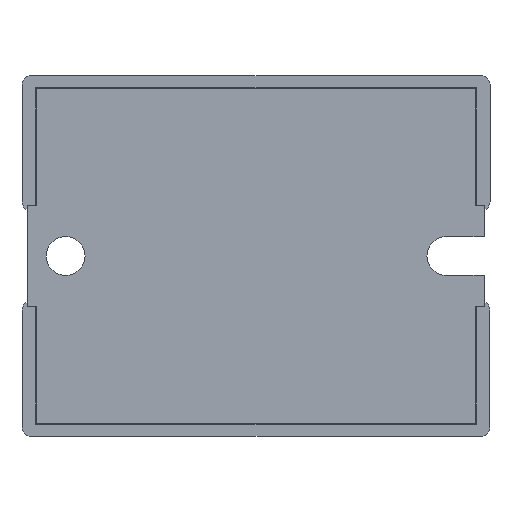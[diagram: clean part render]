
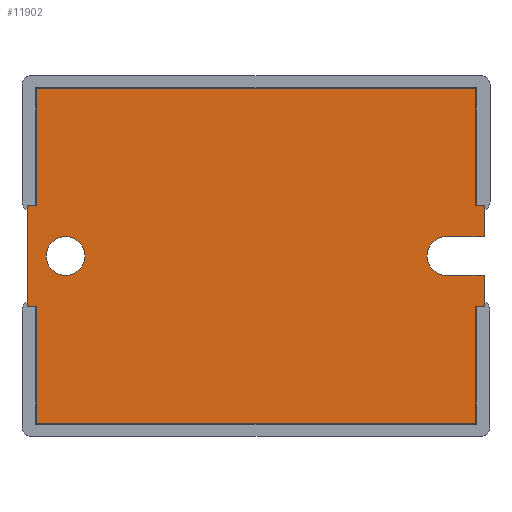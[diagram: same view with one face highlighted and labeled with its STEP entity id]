
A CAD part, front view. The second image highlights one B-rep face of the part: STEP entity #11902.
In plain terms, the highlighted planar face has unit normal (0, -1, 0).
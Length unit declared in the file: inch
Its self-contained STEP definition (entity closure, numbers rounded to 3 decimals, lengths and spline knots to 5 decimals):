
#18 = VECTOR ( 'NONE', #7215, 39.37008 ) ;
#168 = LINE ( 'NONE', #6936, #18 ) ;
#293 = LINE ( 'NONE', #7094, #3520 ) ;
#692 = CARTESIAN_POINT ( 'NONE',  ( 1.08563, -0.765, 0.24713 ) ) ;
#704 = CARTESIAN_POINT ( 'NONE',  ( -1.08563, -0.765, 0.24713 ) ) ;
#706 = CARTESIAN_POINT ( 'NONE',  ( -1.08563, -0.765, 0.82713 ) ) ;
#715 = CARTESIAN_POINT ( 'NONE',  ( -1.08563, -0.765, -0.82713 ) ) ;
#738 = CARTESIAN_POINT ( 'NONE',  ( -1.12713, -0.765, 0.24713 ) ) ;
#785 = CARTESIAN_POINT ( 'NONE',  ( -1.08563, -0.765, -0.24713 ) ) ;
#801 = CARTESIAN_POINT ( 'NONE',  ( -1.12713, -0.765, -0.24713 ) ) ;
#819 = CARTESIAN_POINT ( 'NONE',  ( 0.94, -0.765, -0.096 ) ) ;
#842 = CARTESIAN_POINT ( 'NONE',  ( 0.94, -0.765, 0.096 ) ) ;
#846 = CARTESIAN_POINT ( 'NONE',  ( 1.12713, -0.765, 0.096 ) ) ;
#1364 = LINE ( 'NONE', #6867, #9193 ) ;
#2194 = FACE_BOUND ( 'NONE', #9699, .T. ) ;
#2242 = LINE ( 'NONE', #6702, #8969 ) ;
#2275 = LINE ( 'NONE', #7385, #9082 ) ;
#2283 = LINE ( 'NONE', #5780, #8691 ) ;
#2382 = FACE_OUTER_BOUND ( 'NONE', #10420, .T. ) ;
#2565 = LINE ( 'NONE', #16593, #14569 ) ;
#2748 = CIRCLE ( 'NONE', #2894, 0.096 ) ;
#2894 = AXIS2_PLACEMENT_3D ( 'NONE', #13949, #14347, #14264 ) ;
#2965 = VECTOR ( 'NONE', #14489, 39.37008 ) ;
#3159 = CARTESIAN_POINT ( 'NONE',  ( -1.08563, -0.765, 0.82713 ) ) ;
#3273 = DIRECTION ( 'NONE',  ( 0., 0., 1. ) ) ;
#3274 = CARTESIAN_POINT ( 'NONE',  ( 1.08563, -0.765, -0.82713 ) ) ;
#3359 = DIRECTION ( 'NONE',  ( 0., 0., 1. ) ) ;
#3360 = CARTESIAN_POINT ( 'NONE',  ( 1.12713, -0.765, -0.24713 ) ) ;
#3368 = DIRECTION ( 'NONE',  ( 0., 0., -1. ) ) ;
#3369 = CARTESIAN_POINT ( 'NONE',  ( -1.08563, -0.765, -0.24713 ) ) ;
#3372 = DIRECTION ( 'NONE',  ( 0., 0., -1. ) ) ;
#3375 = DIRECTION ( 'NONE',  ( 0., 0., -1. ) ) ;
#3376 = CARTESIAN_POINT ( 'NONE',  ( -1.12713, -0.765, 0.24713 ) ) ;
#3520 = VECTOR ( 'NONE', #7092, 39.37008 ) ;
#4676 = DIRECTION ( 'NONE',  ( 0., 0., 1. ) ) ;
#4677 = CARTESIAN_POINT ( 'NONE',  ( 1.08563, -0.765, 0.24713 ) ) ;
#5048 = CARTESIAN_POINT ( 'NONE',  ( 1.12713, -0.765, 0.24713 ) ) ;
#5066 = CARTESIAN_POINT ( 'NONE',  ( -0.94, -0.765, 0. ) ) ;
#5131 = DIRECTION ( 'NONE',  ( 0., 0., -1. ) ) ;
#5133 = CARTESIAN_POINT ( 'NONE',  ( 1.08563, -0.765, -0.24713 ) ) ;
#5138 = DIRECTION ( 'NONE',  ( 0., -1., 0. ) ) ;
#5313 = CARTESIAN_POINT ( 'NONE',  ( 1.12713, -0.765, -0.24713 ) ) ;
#5331 = CARTESIAN_POINT ( 'NONE',  ( -0.94, -0.765, 0.096 ) ) ;
#5383 = CARTESIAN_POINT ( 'NONE',  ( 1.08563, -0.765, -0.82713 ) ) ;
#5440 = CARTESIAN_POINT ( 'NONE',  ( -0.94, -0.765, -0.096 ) ) ;
#5551 = CARTESIAN_POINT ( 'NONE',  ( 1.08563, -0.765, 0.82713 ) ) ;
#5756 = CARTESIAN_POINT ( 'NONE',  ( 1.12713, -0.765, -0.096 ) ) ;
#5779 = DIRECTION ( 'NONE',  ( 0., 0., 1. ) ) ;
#5780 = CARTESIAN_POINT ( 'NONE',  ( 1.12713, -0.765, 0.096 ) ) ;
#6702 = CARTESIAN_POINT ( 'NONE',  ( -1.08563, -0.765, 0.24713 ) ) ;
#6715 = CARTESIAN_POINT ( 'NONE',  ( -0.94, -0.765, 0. ) ) ;
#6717 = DIRECTION ( 'NONE',  ( 0., 0., -1. ) ) ;
#6820 = DIRECTION ( 'NONE',  ( -1., 0., 0. ) ) ;
#6867 = CARTESIAN_POINT ( 'NONE',  ( 0.94, -0.765, -0.096 ) ) ;
#6936 = CARTESIAN_POINT ( 'NONE',  ( -1.12713, -0.765, -0.24713 ) ) ;
#7013 = DIRECTION ( 'NONE',  ( 0., -1., 0. ) ) ;
#7029 = DIRECTION ( 'NONE',  ( -1., 0., 0. ) ) ;
#7092 = DIRECTION ( 'NONE',  ( -1., 0., 0. ) ) ;
#7094 = CARTESIAN_POINT ( 'NONE',  ( 1.08563, -0.765, 0.82713 ) ) ;
#7215 = DIRECTION ( 'NONE',  ( 1., 0., 0. ) ) ;
#7384 = DIRECTION ( 'NONE',  ( 1., 0., 0. ) ) ;
#7385 = CARTESIAN_POINT ( 'NONE',  ( -1.08563, -0.765, -0.82713 ) ) ;
#8009 = VECTOR ( 'NONE', #4676, 39.37008 ) ;
#8081 = VECTOR ( 'NONE', #3359, 39.37008 ) ;
#8086 = VECTOR ( 'NONE', #3368, 39.37008 ) ;
#8089 = VECTOR ( 'NONE', #3375, 39.37008 ) ;
#8111 = VECTOR ( 'NONE', #3372, 39.37008 ) ;
#8113 = VECTOR ( 'NONE', #3273, 39.37008 ) ;
#8691 = VECTOR ( 'NONE', #5779, 39.37008 ) ;
#8969 = VECTOR ( 'NONE', #7029, 39.37008 ) ;
#9064 = CIRCLE ( 'NONE', #9081, 0.096 ) ;
#9081 = AXIS2_PLACEMENT_3D ( 'NONE', #6715, #7013, #6717 ) ;
#9082 = VECTOR ( 'NONE', #7384, 39.37008 ) ;
#9193 = VECTOR ( 'NONE', #6820, 39.37008 ) ;
#9348 = ORIENTED_EDGE ( 'NONE', *, *, #11024, .T. ) ;
#9356 = ORIENTED_EDGE ( 'NONE', *, *, #11000, .T. ) ;
#9384 = ORIENTED_EDGE ( 'NONE', *, *, #11005, .T. ) ;
#9436 = ORIENTED_EDGE ( 'NONE', *, *, #11256, .T. ) ;
#9472 = ORIENTED_EDGE ( 'NONE', *, *, #10987, .T. ) ;
#9516 = ORIENTED_EDGE ( 'NONE', *, *, #11002, .T. ) ;
#9528 = ORIENTED_EDGE ( 'NONE', *, *, #11982, .T. ) ;
#9600 = ORIENTED_EDGE ( 'NONE', *, *, #11542, .T. ) ;
#9692 = ORIENTED_EDGE ( 'NONE', *, *, #11213, .T. ) ;
#9699 = EDGE_LOOP ( 'NONE', ( #9813, #9794 ) ) ;
#9794 = ORIENTED_EDGE ( 'NONE', *, *, #12052, .F. ) ;
#9813 = ORIENTED_EDGE ( 'NONE', *, *, #11659, .F. ) ;
#9833 = ORIENTED_EDGE ( 'NONE', *, *, #11616, .T. ) ;
#9884 = ORIENTED_EDGE ( 'NONE', *, *, #11748, .T. ) ;
#9908 = ORIENTED_EDGE ( 'NONE', *, *, #11248, .T. ) ;
#9913 = ORIENTED_EDGE ( 'NONE', *, *, #11579, .T. ) ;
#9960 = ORIENTED_EDGE ( 'NONE', *, *, #10951, .T. ) ;
#10012 = ORIENTED_EDGE ( 'NONE', *, *, #12293, .T. ) ;
#10059 = ORIENTED_EDGE ( 'NONE', *, *, #11652, .T. ) ;
#10420 = EDGE_LOOP ( 'NONE', ( #9692, #9436, #10012, #9908, #9960, #9600, #9472, #10059, #9356, #9913, #9516, #9884, #9348, #9528, #9384, #9833 ) ) ;
#10898 = VECTOR ( 'NONE', #14390, 39.37008 ) ;
#10951 = EDGE_CURVE ( 'NONE', #13002, #12790, #12755, .T. ) ;
#10987 = EDGE_CURVE ( 'NONE', #12988, #12994, #15551, .T. ) ;
#11000 = EDGE_CURVE ( 'NONE', #12961, #12878, #15579, .T. ) ;
#11002 = EDGE_CURVE ( 'NONE', #12904, #12981, #15611, .T. ) ;
#11005 = EDGE_CURVE ( 'NONE', #12492, #12303, #15571, .T. ) ;
#11024 = EDGE_CURVE ( 'NONE', #12463, #12620, #15526, .T. ) ;
#11213 = EDGE_CURVE ( 'NONE', #12869, #12862, #2748, .T. ) ;
#11248 = EDGE_CURVE ( 'NONE', #12646, #13002, #15570, .T. ) ;
#11256 = EDGE_CURVE ( 'NONE', #12862, #12859, #15563, .T. ) ;
#11542 = EDGE_CURVE ( 'NONE', #12790, #12988, #293, .T. ) ;
#11579 = EDGE_CURVE ( 'NONE', #12878, #12904, #168, .T. ) ;
#11616 = EDGE_CURVE ( 'NONE', #12303, #12869, #1364, .T. ) ;
#11652 = EDGE_CURVE ( 'NONE', #12994, #12961, #2242, .T. ) ;
#11659 = EDGE_CURVE ( 'NONE', #12090, #12079, #9064, .T. ) ;
#11748 = EDGE_CURVE ( 'NONE', #12981, #12463, #2275, .T. ) ;
#11902 = ADVANCED_FACE ( 'NONE', ( #2382, #2194 ), #16753, .T. ) ;
#11982 = EDGE_CURVE ( 'NONE', #12620, #12492, #2565, .T. ) ;
#12052 = EDGE_CURVE ( 'NONE', #12079, #12090, #13416, .T. ) ;
#12079 = VERTEX_POINT ( 'NONE', #5440 ) ;
#12090 = VERTEX_POINT ( 'NONE', #5331 ) ;
#12293 = EDGE_CURVE ( 'NONE', #12859, #12646, #2283, .T. ) ;
#12303 = VERTEX_POINT ( 'NONE', #5756 ) ;
#12463 = VERTEX_POINT ( 'NONE', #5383 ) ;
#12492 = VERTEX_POINT ( 'NONE', #5313 ) ;
#12620 = VERTEX_POINT ( 'NONE', #5133 ) ;
#12646 = VERTEX_POINT ( 'NONE', #5048 ) ;
#12755 = LINE ( 'NONE', #4677, #8009 ) ;
#12790 = VERTEX_POINT ( 'NONE', #5551 ) ;
#12859 = VERTEX_POINT ( 'NONE', #846 ) ;
#12862 = VERTEX_POINT ( 'NONE', #842 ) ;
#12869 = VERTEX_POINT ( 'NONE', #819 ) ;
#12878 = VERTEX_POINT ( 'NONE', #801 ) ;
#12904 = VERTEX_POINT ( 'NONE', #785 ) ;
#12961 = VERTEX_POINT ( 'NONE', #738 ) ;
#12981 = VERTEX_POINT ( 'NONE', #715 ) ;
#12988 = VERTEX_POINT ( 'NONE', #706 ) ;
#12994 = VERTEX_POINT ( 'NONE', #704 ) ;
#13002 = VERTEX_POINT ( 'NONE', #692 ) ;
#13389 = AXIS2_PLACEMENT_3D ( 'NONE', #5066, #5138, #5131 ) ;
#13416 = CIRCLE ( 'NONE', #13389, 0.096 ) ;
#13949 = CARTESIAN_POINT ( 'NONE',  ( 0.94, -0.765, 0. ) ) ;
#14264 = DIRECTION ( 'NONE',  ( 0., 0., -1. ) ) ;
#14347 = DIRECTION ( 'NONE',  ( 0., 1., 0. ) ) ;
#14390 = DIRECTION ( 'NONE',  ( 1., 0., 0. ) ) ;
#14429 = CARTESIAN_POINT ( 'NONE',  ( 0.94, -0.765, 0.096 ) ) ;
#14489 = DIRECTION ( 'NONE',  ( -1., 0., 0. ) ) ;
#14505 = CARTESIAN_POINT ( 'NONE',  ( 1.12713, -0.765, 0.24713 ) ) ;
#14544 = AXIS2_PLACEMENT_3D ( 'NONE', #16752, #16751, #16748 ) ;
#14569 = VECTOR ( 'NONE', #16592, 39.37008 ) ;
#15526 = LINE ( 'NONE', #3274, #8113 ) ;
#15551 = LINE ( 'NONE', #3159, #8111 ) ;
#15563 = LINE ( 'NONE', #14429, #10898 ) ;
#15570 = LINE ( 'NONE', #14505, #2965 ) ;
#15571 = LINE ( 'NONE', #3360, #8081 ) ;
#15579 = LINE ( 'NONE', #3376, #8089 ) ;
#15611 = LINE ( 'NONE', #3369, #8086 ) ;
#16592 = DIRECTION ( 'NONE',  ( 1., 0., 0. ) ) ;
#16593 = CARTESIAN_POINT ( 'NONE',  ( 1.08563, -0.765, -0.24713 ) ) ;
#16748 = DIRECTION ( 'NONE',  ( 0., 0., -1. ) ) ;
#16751 = DIRECTION ( 'NONE',  ( 0., -1., 0. ) ) ;
#16752 = CARTESIAN_POINT ( 'NONE',  ( 0.94, -0.765, 0. ) ) ;
#16753 = PLANE ( 'NONE',  #14544 ) ;
